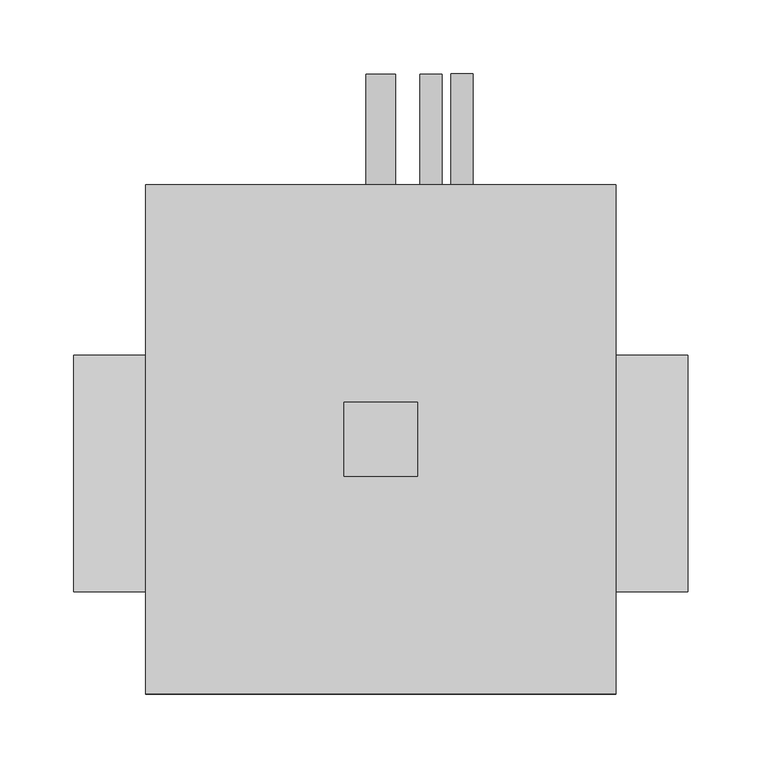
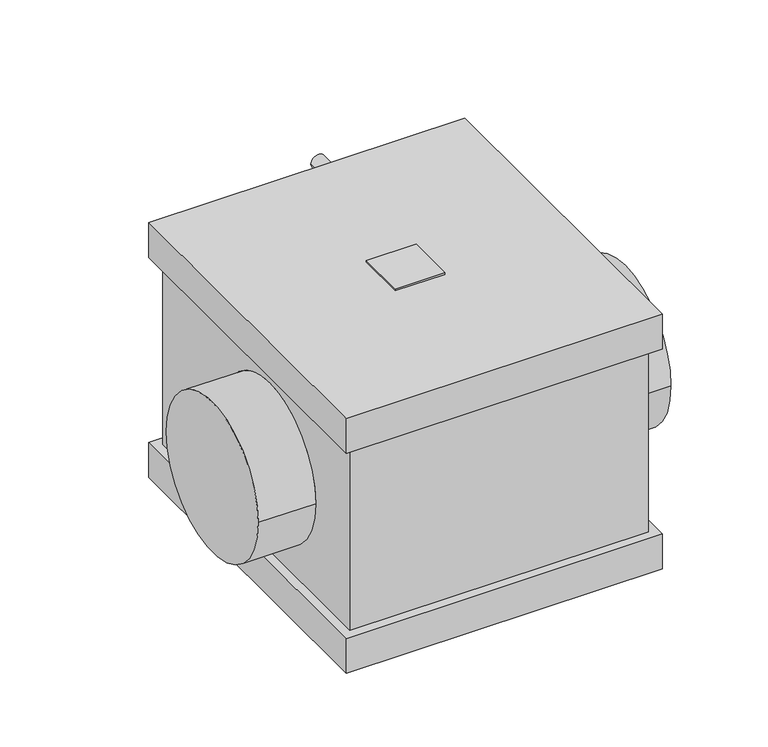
"""IFC4 building model written with IfcOpenShell, lengths in millimetres: proxy geometry, KORF_Охладитель_Водяной_Круглый_Правый_KWLO : KWLO 160/2."""

from ifc_helpers import new_model, si_unit, point, frame, frame_2d, origin, place, context, project, spatial, polyline, circle_curve, trimmed, segment, composite_curve, outline, extrude, source, transform, mapped, element, save
from ifc_brep_helpers import plane_surface, cylinder_surface, advanced_brep


def mechanical_equipment_a2146720(model_context):
    return source(origin(), model_context, "Body", "SolidModel", [
        extrude(outline(polyline([(232.5, 48.0), (232.5, -2.0), (182.5, -2.0), (182.5, 48.0), (232.5, 48.0)])), frame((0.0, 0.0, 135.5), z_axis=(0.0, 0.0, 1.0), x_axis=(1.0, 0.0, 0.0)), (0.0, 0.0, 1.0), 2.0),
        advanced_brep(
        [(415.0, -80.0, 0.0), (415.0, 80.0, 0.0), (0.0, -80.0, 0.0), (0.0, 80.0, 0.0), (357.5, -80.0, 0.0), (357.5, 80.0, 0.0), (57.5, 80.0, 0.0), (57.5, -80.0, 0.0), (357.5, -140.0, -98.5), (357.5, 186.0, -98.5), (357.5, 186.0, 98.5), (357.5, -140.0, 98.5), (57.5, 186.0, -98.5), (57.5, -140.0, -98.5), (57.5, -140.0, 98.5), (57.5, 186.0, 98.5), (366.5, 195.0, -135.5), (366.5, -149.0, -135.5), (48.5, -149.0, -135.5), (48.5, 195.0, -135.5), (366.5, -149.0, 135.5), (366.5, 195.0, 135.5), (48.5, 195.0, 135.5), (48.5, -149.0, 135.5), (366.5, 195.0, -98.5), (366.5, -149.0, -98.5), (48.5, -149.0, -98.5), (48.5, 195.0, -98.5), (366.5, 195.0, 98.5), (366.5, -149.0, 98.5), (48.5, -149.0, 98.5), (48.5, 195.0, 98.5)],
        [
            (0, 1, circle_curve(frame((415.0, 0.0, 0.0), z_axis=(1.0, 0.0, 0.0), x_axis=(0.0, 1.0, 0.0)), 80.0)),
            (1, 0, circle_curve(frame((415.0, 0.0, 0.0), z_axis=(1.0, 0.0, 0.0), x_axis=(0.0, 1.0, 0.0)), 80.0)),
            (2, 3, circle_curve(frame((0.0, 0.0, 0.0), z_axis=(-1.0, 0.0, 0.0), x_axis=(0.0, 1.0, 0.0)), 80.0)),
            (3, 2, circle_curve(frame((0.0, 0.0, 0.0), z_axis=(-1.0, 0.0, 0.0), x_axis=(0.0, 1.0, 0.0)), 80.0)),
            (0, 4),
            (4, 5, circle_curve(frame((357.5, 0.0, 0.0), z_axis=(1.0, 0.0, 0.0), x_axis=(0.0, 1.0, 0.0)), 80.0)),
            (5, 1),
            (3, 6),
            (6, 7, circle_curve(frame((57.5, 0.0, 0.0), z_axis=(-1.0, 0.0, 0.0), x_axis=(0.0, 1.0, 0.0)), 80.0)),
            (7, 2),
            (5, 4, circle_curve(frame((357.5, 0.0, 0.0), z_axis=(1.0, 0.0, 0.0), x_axis=(0.0, 1.0, 0.0)), 80.0)),
            (7, 6, circle_curve(frame((57.5, 0.0, 0.0), z_axis=(-1.0, 0.0, 0.0), x_axis=(0.0, 1.0, 0.0)), 80.0)),
            (8, 9),
            (9, 10),
            (10, 11),
            (11, 8),
            (12, 13),
            (13, 14),
            (14, 15),
            (15, 12),
            (13, 8),
            (11, 14),
            (16, 17),
            (17, 18),
            (18, 19),
            (19, 16),
            (9, 12),
            (15, 10),
            (20, 21),
            (21, 22),
            (22, 23),
            (23, 20),
            (16, 24),
            (24, 25),
            (25, 17),
            (25, 26),
            (26, 18),
            (26, 27),
            (27, 19),
            (24, 27),
            (28, 21),
            (20, 29),
            (29, 28),
            (23, 30),
            (30, 29),
            (22, 31),
            (31, 30),
            (28, 31),
        ],
        [
            plane_surface(frame((415.0, 80.0, 0.0), z_axis=(1.0, 0.0, 0.0), x_axis=(0.0, 0.0, 1.0))),
            plane_surface(frame((0.0, 80.0, 0.0), z_axis=(-1.0, 0.0, 0.0), x_axis=(0.0, 0.0, -1.0))),
            cylinder_surface(frame((0.0, 0.0, 0.0), z_axis=(1.0, 0.0, 0.0), x_axis=(0.0, 1.0, 0.0)), 80.0),
            plane_surface(frame((357.5, -140.0, 135.5), z_axis=(1.0, 0.0, 0.0), x_axis=(0.0, 0.0, -1.0))),
            plane_surface(frame((57.5, -140.0, 135.5), z_axis=(-1.0, 0.0, 0.0), x_axis=(0.0, 0.0, 1.0))),
            plane_surface(frame((357.5, -140.0, 135.5), z_axis=(0.0, -1.0, 0.0), x_axis=(-1.0, 0.0, 0.0))),
            plane_surface(frame((357.5, -140.0, -135.5), z_axis=(0.0, 0.0, -1.0), x_axis=(-1.0, 0.0, 0.0))),
            plane_surface(frame((357.5, 186.0, -135.5), z_axis=(0.0, 1.0, 0.0), x_axis=(-1.0, 0.0, 0.0))),
            plane_surface(frame((357.5, 186.0, 135.5), z_axis=(0.0, 0.0, 1.0), x_axis=(-1.0, 0.0, 0.0))),
            plane_surface(frame((366.5, 195.0, -98.5), z_axis=(1.0, 0.0, 0.0), x_axis=(0.0, -1.0, 0.0))),
            plane_surface(frame((366.5, -149.0, -98.5), z_axis=(0.0, -1.0, 0.0), x_axis=(-1.0, 0.0, 0.0))),
            plane_surface(frame((48.5, -149.0, -98.5), z_axis=(-1.0, 0.0, 0.0), x_axis=(0.0, 1.0, 0.0))),
            plane_surface(frame((57.5, 186.0, -98.5), z_axis=(0.0, 0.0, 1.0), x_axis=(1.0, 0.0, 0.0))),
            plane_surface(frame((48.5, 195.0, -98.5), z_axis=(0.0, 1.0, 0.0), x_axis=(1.0, 0.0, 0.0))),
            plane_surface(frame((366.5, 195.0, 135.5), z_axis=(1.0, 0.0, 0.0), x_axis=(0.0, -1.0, 0.0))),
            plane_surface(frame((366.5, -149.0, 135.5), z_axis=(0.0, -1.0, 0.0), x_axis=(-1.0, 0.0, 0.0))),
            plane_surface(frame((48.5, -149.0, 135.5), z_axis=(-1.0, 0.0, 0.0), x_axis=(0.0, 1.0, 0.0))),
            plane_surface(frame((48.5, 195.0, 135.5), z_axis=(0.0, 1.0, 0.0), x_axis=(1.0, 0.0, 0.0))),
            plane_surface(frame((48.5, 195.0, 98.5), z_axis=(0.0, 0.0, -1.0), x_axis=(1.0, 0.0, 0.0))),
        ],
        [
            (0, [[1, 2]]),
            (1, [[3, 4]]),
            (2, [[-1, 5, 6, 7]]),
            (2, [[-4, 8, 9, 10]]),
            (2, [[-2, -7, 11, -5]]),
            (2, [[-3, -10, 12, -8]]),
            (3, [[13, 14, 15, 16], [-6, -11]]),
            (4, [[17, 18, 19, 20], [-9, -12]]),
            (5, [[21, -16, 22, -18]]),
            (6, [[23, 24, 25, 26]]),
            (7, [[27, -20, 28, -14]]),
            (8, [[29, 30, 31, 32]]),
            (9, [[33, 34, 35, -23]]),
            (10, [[-35, 36, 37, -24]]),
            (11, [[-37, 38, 39, -25]]),
            (12, [[-34, 40, -38, -36], [-13, -21, -17, -27]]),
            (13, [[-33, -26, -39, -40]]),
            (14, [[41, -29, 42, 43]]),
            (15, [[-42, -32, 44, 45]]),
            (16, [[-44, -31, 46, 47]]),
            (17, [[-41, 48, -46, -30]]),
            (18, [[-43, -45, -47, -48], [-15, -28, -19, -22]]),
        ],
    ),
        extrude(outline(composite_curve([segment(trimmed(circle_curve(frame_2d((-80.0, 241.5)), 7.5), [point((-80.0, 234.0))], [point((-80.0, 249.0))], False, "CARTESIAN"), True, "CONTINUOUS"), segment(trimmed(circle_curve(frame_2d((-80.0, 241.5)), 7.5), [point((-80.0, 249.0))], [point((-80.0, 234.0))], False, "CARTESIAN"), True, "CONTINUOUS")], self_intersect=False)), frame((0.0, 186.0, 0.0), z_axis=(0.0, 1.0, 0.0), x_axis=(0.0, 0.0, 1.0)), (0.0, 0.0, 1.0), 84.0),
        extrude(outline(composite_curve([segment(trimmed(circle_curve(frame_2d((80.0, 262.5)), 7.5), [point((80.0, 255.0))], [point((80.0, 270.0))], False, "CARTESIAN"), True, "CONTINUOUS"), segment(trimmed(circle_curve(frame_2d((80.0, 262.5)), 7.5), [point((80.0, 270.0))], [point((80.0, 255.0))], False, "CARTESIAN"), True, "CONTINUOUS")], self_intersect=False)), frame((0.0, 186.0, 0.0), z_axis=(0.0, 1.0, 0.0), x_axis=(0.0, 0.0, 1.0)), (0.0, 0.0, 1.0), 84.0),
        extrude(outline(composite_curve([segment(trimmed(circle_curve(frame_2d((-116.5, 207.5)), 10.0), [point((-116.5, 197.5))], [point((-116.5, 217.5))], False, "CARTESIAN"), True, "CONTINUOUS"), segment(trimmed(circle_curve(frame_2d((-116.5, 207.5)), 10.0), [point((-116.5, 217.5))], [point((-116.5, 197.5))], False, "CARTESIAN"), True, "CONTINUOUS")], self_intersect=False)), frame((0.0, 195.0, 0.0), z_axis=(0.0, 1.0, 0.0), x_axis=(0.0, 0.0, 1.0)), (0.0, 0.0, 1.0), 75.0),
    ])


if __name__ == "__main__":
    model = new_model("IFC4")
    model_context = context("Model", 3, world=origin())
    ifc_project = project(units=[si_unit("LENGTHUNIT", "METRE", prefix="MILLI")], contexts=[model_context])
    site = spatial("IfcSite", under=ifc_project)
    building = spatial("IfcBuilding", under=site)
    placement = place(None, origin())
    mechanical_equipment_shape = mechanical_equipment_a2146720(model_context)
    element("IfcBuildingElementProxy", 1, Name="KORF_Охладитель_Водяной_Круглый_Правый_KWLO : KWLO 160/2", ObjectType="KORF_Охладитель_Водяной_Круглый_Правый_KWLO : KWLO 160/2", at=placement, inside=building, context=model_context, shape_type="MappedRepresentation", body=[
        mapped(mechanical_equipment_shape, transform((0.0, 0.0, 0.0), x_axis=(1.0, 0.0, 0.0), y_axis=(0.0, 1.0, 0.0), z_axis=(0.0, 0.0, 1.0))),
    ])
    save(model, "model.ifc")
